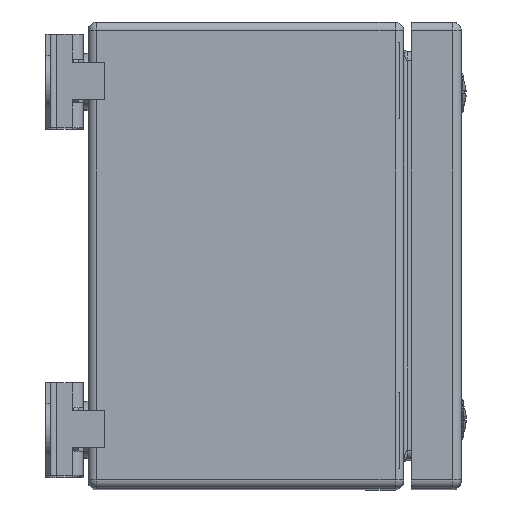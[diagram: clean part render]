
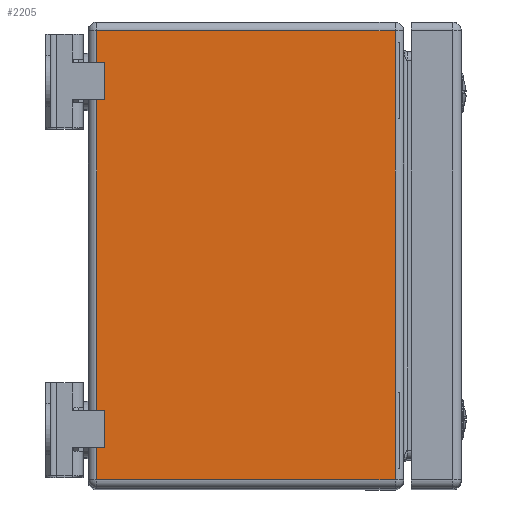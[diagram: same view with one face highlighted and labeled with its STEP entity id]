
A CAD part, top view. The second image highlights one B-rep face of the part: STEP entity #2205.
In plain terms, the highlighted planar face has unit normal (0, 0, 1).
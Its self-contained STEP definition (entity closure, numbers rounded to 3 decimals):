
#2205=ADVANCED_FACE('',(#3257),#3259,.T.);
#3257=FACE_BOUND('',#3258,.T.);
#3258=EDGE_LOOP('',(#7498,#7499,#7500,#7501));
#3259=PLANE('',#3260);
#3260=AXIS2_PLACEMENT_3D('',#3261,#3262,#3263);
#3261=CARTESIAN_POINT('',(98.7,72.2,150.));
#3262=DIRECTION('',(0.,0.,1.));
#3263=DIRECTION('',(-1.,0.,0.));
#7498=ORIENTED_EDGE('',*,*,#9224,.T.);
#7499=ORIENTED_EDGE('',*,*,#9225,.F.);
#7500=ORIENTED_EDGE('',*,*,#9226,.F.);
#7501=ORIENTED_EDGE('',*,*,#9227,.T.);
#9224=EDGE_CURVE('',#10272,#10273,#10274,.T.);
#9225=EDGE_CURVE('',#10275,#10273,#10276,.T.);
#9226=EDGE_CURVE('',#10277,#10275,#10278,.T.);
#9227=EDGE_CURVE('',#10277,#10272,#10279,.T.);
#10272=VERTEX_POINT('',#12139);
#10273=VERTEX_POINT('',#12140);
#10274=LINE('',#12141,#12142);
#10275=VERTEX_POINT('',#12144);
#10276=LINE('',#12145,#12146);
#10277=VERTEX_POINT('',#12148);
#10278=LINE('',#12149,#12150);
#10279=LINE('',#12152,#12153);
#12139=CARTESIAN_POINT('',(2.8,-72.2,150.));
#12140=CARTESIAN_POINT('',(98.7,-72.2,150.));
#12141=CARTESIAN_POINT('',(2.8,-72.2,150.));
#12142=VECTOR('',#12143,1.);
#12143=DIRECTION('',(1.,0.,0.));
#12144=CARTESIAN_POINT('',(98.7,72.2,150.));
#12145=CARTESIAN_POINT('',(98.7,72.2,150.));
#12146=VECTOR('',#12147,1.);
#12147=DIRECTION('',(0.,-1.,0.));
#12148=CARTESIAN_POINT('',(2.8,72.2,150.));
#12149=CARTESIAN_POINT('',(2.8,72.2,150.));
#12150=VECTOR('',#12151,1.);
#12151=DIRECTION('',(1.,0.,0.));
#12152=CARTESIAN_POINT('',(2.8,72.2,150.));
#12153=VECTOR('',#12154,1.);
#12154=DIRECTION('',(0.,-1.,0.));
